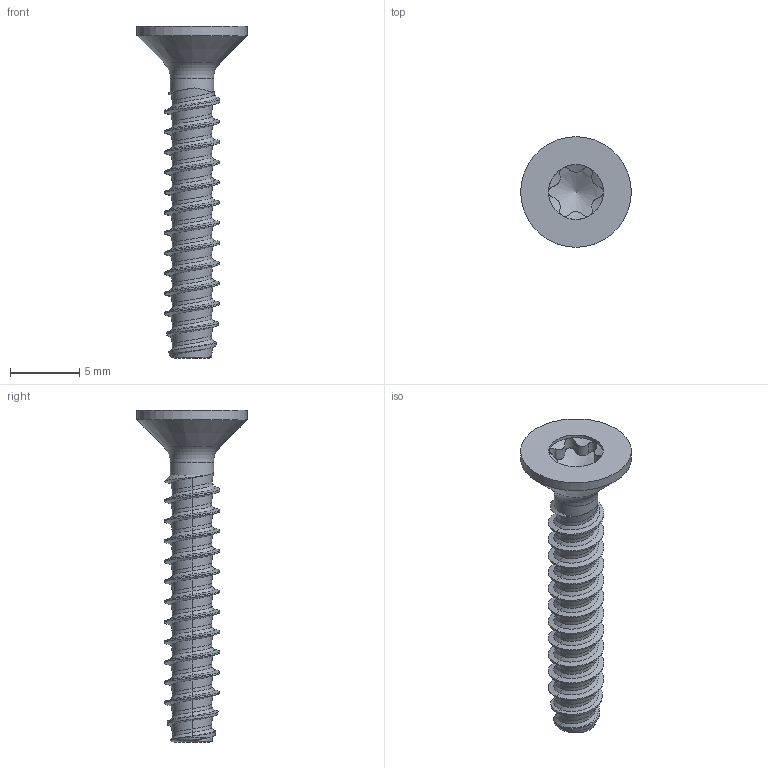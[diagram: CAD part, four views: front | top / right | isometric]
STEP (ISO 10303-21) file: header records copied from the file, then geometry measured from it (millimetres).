
FILE_DESCRIPTION(/* description */ (''),/* implementation_level */ '2;1');
FILE_NAME(/* name */ 'KN6041-STSplus-40x24-T20.step',/* time_stamp */ '2017-10-12T09:31:56+02:00',/* author */ (''),/* organization */ (''),/* preprocessor_version */ 'ST-DEVELOPER v16',/* originating_system */ 'SIEMENS PLM Software NX 10.0',/* authorisation */ '');
FILE_SCHEMA (('AUTOMOTIVE_DESIGN { 1 0 10303 214 3 1 1 1 }'));
Length unit declared in the file: millimetre
Products named in the file (1): KN6041-STSplus-40x24-T20
Bounding box: 8 x 8 x 24 mm (x, y, z)
Volume: 243.1 mm3; surface area: 454.5 mm2
Topology: 1 solids, 1 shells, 97 faces, 230 edges, 135 vertices
Faces by surface type: bspline 72, cylinder 16, cone 5, torus 2, plane 2
Full cylindrical faces by diameter (mm): 3.13 x1, 3.97 x1, 8 x1
Entity records: 6877 total; most frequent: CARTESIAN_POINT 5185, ORIENTED_EDGE 430, EDGE_CURVE 215, DIRECTION 153, VERTEX_POINT 129, B_SPLINE_CURVE_WITH_KNOTS 125, EDGE_LOOP 105, ADVANCED_FACE 97
